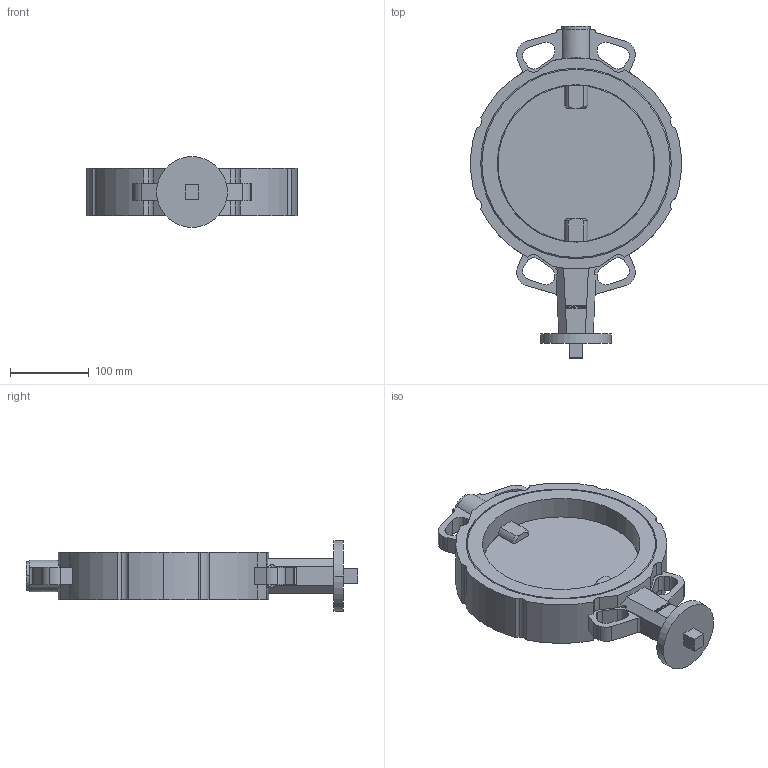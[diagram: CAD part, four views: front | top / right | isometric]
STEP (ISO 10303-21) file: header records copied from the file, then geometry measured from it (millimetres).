
FILE_DESCRIPTION((''),'2;1');
FILE_NAME('KL000017.dwg.stp','2006-10-04T11:30:40',(''),(''),'Mechanical Desktop 2006','Mechanical Desktop 2006',', , ');
FILE_SCHEMA(('AUTOMOTIVE_DESIGN { 1 2 10303 214 0 1 1 1 }'));
Length unit declared in the file: millimetre
Products named in the file (1): Product
Bounding box: 268 x 421.5 x 90 mm (x, y, z)
Volume: 1982518.1 mm3; surface area: 352582.9 mm2
Topology: 20 solids, 20 shells, 528 faces, 1459 edges, 971 vertices
Faces by surface type: cylinder 238, plane 200, bspline 70, cone 16, sphere 4
Entity records: 17639 total; most frequent: CARTESIAN_POINT 3795, DIRECTION 2946, ORIENTED_EDGE 2918, EDGE_CURVE 1459, AXIS2_PLACEMENT_3D 1054, VERTEX_POINT 971, VECTOR 838, LINE 838
